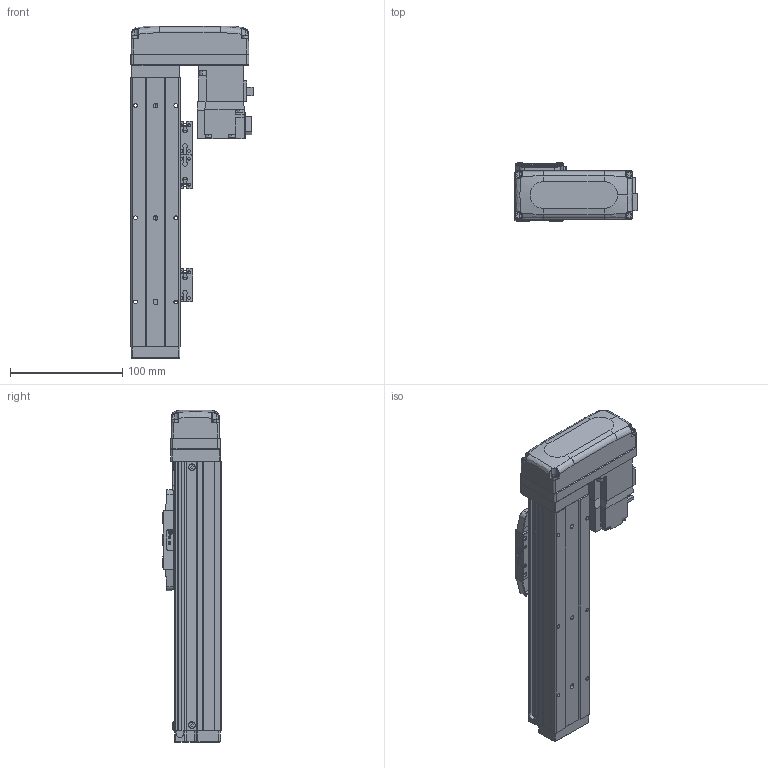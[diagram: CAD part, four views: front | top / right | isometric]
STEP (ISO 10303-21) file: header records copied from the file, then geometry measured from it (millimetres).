
FILE_DESCRIPTION (( 'STEP AP203' ), '1' );
FILE_NAME ('BTH40-100-BL-M05-C4.step', '2021-12-16T00:14:32', ( '微软用户' ), ( '微软中国' ), 'SwSTEP 2.0', 'SolidWorks 2020', '' );
FILE_SCHEMA (( 'CONFIG_CONTROL_DESIGN' ));
Length unit declared in the file: millimetre
Products named in the file (19): BTH40-006; GBT96.1-2002 3×0.8; BTH40-027-1; BTH-M3X5X6; BTH40-022; BTH50-026; GBT70.1-2000 M3×16; GBT 70.1-M2.5×6; BTH40-100-BL-M05-C4; BTH50-028; BTH40-004; BTH50-023; BTH40-013; BTH40-001-50_BTH40-001-100; BTH50-024; HG-KR13; BTH40-003; GBT 70.1-M3℅6; GBT 70.3-M3℅6
Assembly tree (47 placements, depth 2):
  BTH40-100-BL-M05-C4
    BTH40-001-50_BTH40-001-100
    BTH40-003
    BTH40-006
    BTH-M3X5X6  x8
    GBT70.1-2000 M3×16  x4
    BTH50-028  x2
    BTH50-023  x3
    BTH50-024  x3
    GBT 70.1-M3℅6  x6
    GBT96.1-2002 3×0.8  x6
    BTH40-022
    GBT 70.1-M2.5×6  x2
    BTH40-004
    BTH40-013
    HG-KR13
    GBT 70.3-M3℅6  x4
    BTH40-027-1
    BTH50-026
Bounding box: 108.8 x 52 x 296 mm (x, y, z)
Volume: 688610.4 mm3; surface area: 146320.3 mm2
Topology: 49 solids, 49 shells, 1967 faces, 4611 edges, 2834 vertices
Faces by surface type: plane 1052, cylinder 479, cone 270, torus 128, bspline 34, sphere 4
Entity records: 39099 total; most frequent: CARTESIAN_POINT 7498, DIRECTION 6112, ORIENTED_EDGE 5868, EDGE_CURVE 2934, AXIS2_PLACEMENT_3D 2083, VECTOR 1946, LINE 1946, VERTEX_POINT 1821
